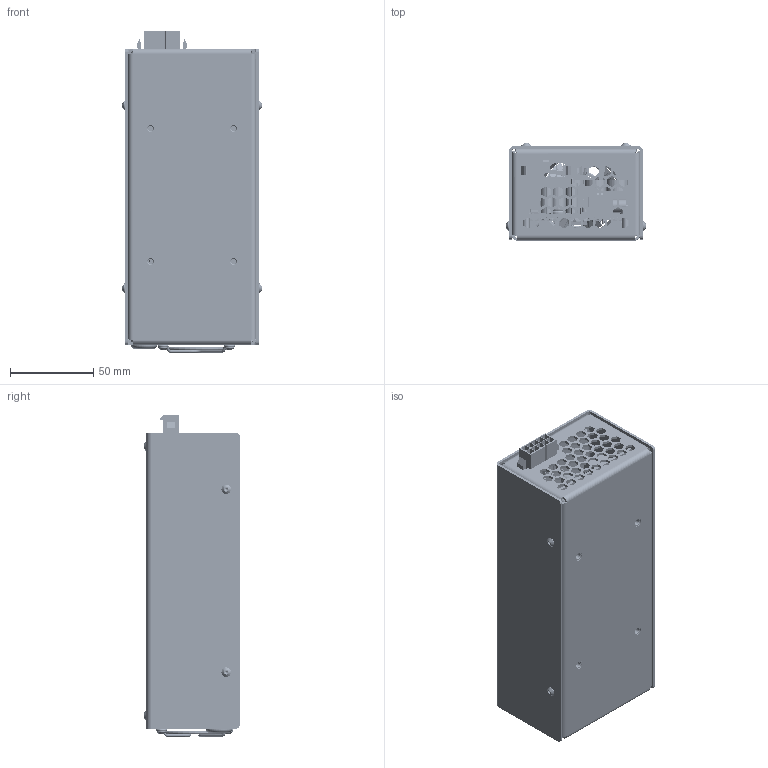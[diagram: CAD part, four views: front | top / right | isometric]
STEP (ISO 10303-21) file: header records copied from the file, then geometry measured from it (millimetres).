
FILE_DESCRIPTION (( 'STEP AP214' ), '1' );
FILE_NAME ('437.00.00.000-05_SBZ-3008.STEP', '2025-09-09T16:58:08', ( '' ), ( '' ), 'SwSTEP 2.0', 'SolidWorks 2019', '' );
FILE_SCHEMA (( 'AUTOMOTIVE_DESIGN' ));
Length unit declared in the file: millimetre
Products named in the file (17): Molex 39012101; Âåíòèëÿòîð 50x50x15; SBZ-2008; Âòóëêà ðåçüá. íåïîëíîïðîõ. BSO-M3-14 ZI; Ãàéêà CN clinch nut M4; 妈眚 󉱴 DIN912; ﾘ琺矜 ﾌ3 DIN127; Ðåøåòêà-ãðèëü 50x50; Êàáåëüíûé ââîä ñ ïåðåãîðîäêîé PPE-10; Ãàéêà CN clinch nut M3; 437.01.00.000-02_Êîðïóñ â ñáîðå (ñáîðî÷íàÿ åäèíèöà); 437.02.00.001-02_Êðûøêà; 437.00.00.000-05_SBZ-3008; 437.02.00.000-02_Êðûøêà â ñáîðå (ñáîðî÷íàÿ åäèíèöà); 妈眚 󉱴 ISO7380; ﾘ琺矜 ﾌ3 DIN125; 437.01.00.001-02_扻豵鵨
Assembly tree (55 placements, depth 3):
  437.00.00.000-05_SBZ-3008
    437.01.00.000-02_Êîðïóñ â ñáîðå (ñáîðî÷íàÿ åäèíèöà)
      437.01.00.001-02_扻豵鵨
      Âåíòèëÿòîð 50x50x15
      Ðåøåòêà-ãðèëü 50x50
      Âòóëêà ðåçüá. íåïîëíîïðîõ. BSO-M3-14 ZI  x8
      Ãàéêà CN clinch nut M3  x8
      Ãàéêà CN clinch nut M4  x4
      妈眚 󉱴 ISO7380  x4
    437.02.00.000-02_Êðûøêà â ñáîðå (ñáîðî÷íàÿ åäèíèöà)
      437.02.00.001-02_Êðûøêà
      Ãàéêà CN clinch nut M4  x2
    SBZ-2008
    ﾘ琺矜 ﾌ3 DIN125  x4
    ﾘ琺矜 ﾌ3 DIN127  x4
    妈眚 󉱴 DIN912  x4
    妈眚 󉱴 ISO7380  x8
    Êàáåëüíûé ââîä ñ ïåðåãîðîäêîé PPE-10
    Molex 39012101
Bounding box: 83.8 x 58.15 x 193.3 mm (x, y, z)
Volume: 108745.9 mm3; surface area: 197472.8 mm2
Topology: 56 solids, 1498 shells, 7593 faces, 39925 edges, 33706 vertices
Faces by surface type: plane 4648, cylinder 2311, cone 247, bspline 240, torus 115, sphere 32
Entity records: 423084 total; most frequent: CARTESIAN_POINT 124945, ORIENTED_EDGE 45306, DIRECTION 37887, EDGE_CURVE 35755, VERTEX_POINT 31069, LINE 19269, VECTOR 19269, B_SPLINE_CURVE_WITH_KNOTS 12801
